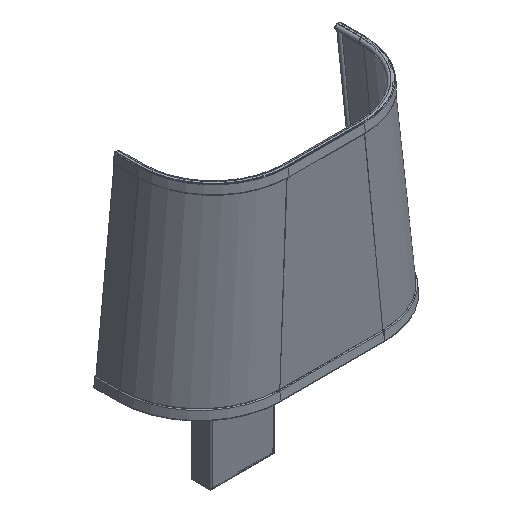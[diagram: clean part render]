
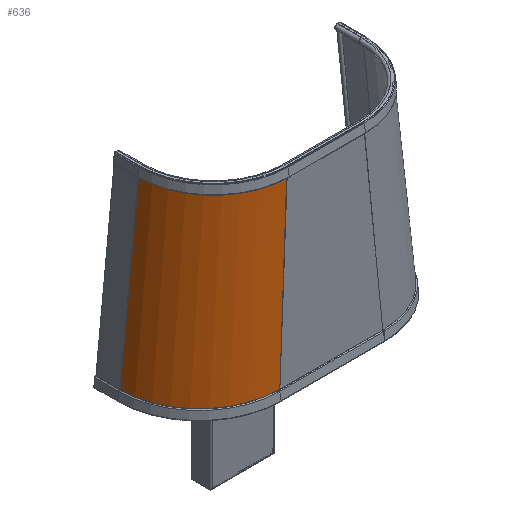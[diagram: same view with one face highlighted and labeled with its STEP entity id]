
A CAD part, isometric view. The second image highlights one B-rep face of the part: STEP entity #636.
In plain terms, the highlighted free-form (B-spline) face has degree [1, 2] with [2, 9] control points.
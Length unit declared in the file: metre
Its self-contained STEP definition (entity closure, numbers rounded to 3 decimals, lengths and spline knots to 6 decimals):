
#636 = ADVANCED_FACE( '', ( #897 ), #898, .T. );
#897 = FACE_OUTER_BOUND( '', #1566, .T. );
#898 = ( B_SPLINE_SURFACE( 1, 2, ( ( #1568, #1569, #1570, #1571, #1572, #1573, #1574, #1575, #1576 ), ( #1577, #1578, #1579, #1580, #1581, #1582, #1583, #1584, #1585 ) ), .UNSPECIFIED., .F., .T., .F. )B_SPLINE_SURFACE_WITH_KNOTS( ( 2, 2 ), ( 3, 2, 2, 2, 3 ), ( -2.486153, 0.157317 ), ( 0., 157.07923, 314.15846, 471.23769, 628.31692 ), .UNSPECIFIED. )RATIONAL_B_SPLINE_SURFACE( ( ( 1., 0.707, 1., 0.707, 1., 0.707, 1., 0.707, 1. ), ( 1., 0.707, 1., 0.707, 1., 0.707, 1., 0.707, 1. ) ) )BOUNDED_SURFACE(  )REPRESENTATION_ITEM( '' )GEOMETRIC_REPRESENTATION_ITEM(  )SURFACE(  ) );
#1566 = EDGE_LOOP( '', ( #2327, #2328, #2329, #2330 ) );
#1568 = CARTESIAN_POINT( '', ( 45.827808, 10.71033, 0.410837 ) );
#1569 = CARTESIAN_POINT( '', ( 45.73604, 10.71033, 0.417522 ) );
#1570 = CARTESIAN_POINT( '', ( 45.73604, 10.618076, 0.417522 ) );
#1571 = CARTESIAN_POINT( '', ( 45.73604, 10.525821, 0.417522 ) );
#1572 = CARTESIAN_POINT( '', ( 45.827808, 10.525821, 0.410837 ) );
#1573 = CARTESIAN_POINT( '', ( 45.919575, 10.525821, 0.404152 ) );
#1574 = CARTESIAN_POINT( '', ( 45.919575, 10.618076, 0.404152 ) );
#1575 = CARTESIAN_POINT( '', ( 45.919575, 10.71033, 0.404152 ) );
#1576 = CARTESIAN_POINT( '', ( 45.827808, 10.71033, 0.410837 ) );
#1577 = CARTESIAN_POINT( '', ( 45.808611, 10.718565, 0.147317 ) );
#1578 = CARTESIAN_POINT( '', ( 45.708652, 10.718565, 0.154599 ) );
#1579 = CARTESIAN_POINT( '', ( 45.708652, 10.618076, 0.154599 ) );
#1580 = CARTESIAN_POINT( '', ( 45.708652, 10.517586, 0.154599 ) );
#1581 = CARTESIAN_POINT( '', ( 45.808611, 10.517586, 0.147317 ) );
#1582 = CARTESIAN_POINT( '', ( 45.90857, 10.517586, 0.140036 ) );
#1583 = CARTESIAN_POINT( '', ( 45.90857, 10.618076, 0.140036 ) );
#1584 = CARTESIAN_POINT( '', ( 45.90857, 10.718565, 0.140036 ) );
#1585 = CARTESIAN_POINT( '', ( 45.808611, 10.718565, 0.147317 ) );
#2327 = ORIENTED_EDGE( '', *, *, #3979, .F. );
#2328 = ORIENTED_EDGE( '', *, *, #3961, .T. );
#2329 = ORIENTED_EDGE( '', *, *, #3974, .T. );
#2330 = ORIENTED_EDGE( '', *, *, #3954, .T. );
#3954 = EDGE_CURVE( '', #4461, #4459, #4462, .T. );
#3961 = EDGE_CURVE( '', #4474, #4472, #4475, .T. );
#3974 = EDGE_CURVE( '', #4472, #4461, #4494, .T. );
#3979 = EDGE_CURVE( '', #4474, #4459, #4499, .T. );
#4459 = VERTEX_POINT( '', #5312 );
#4461 = VERTEX_POINT( '', #5315 );
#4462 = CIRCLE( '', #5316, 0.0925 );
#4472 = VERTEX_POINT( '', #5329 );
#4474 = VERTEX_POINT( '', #5332 );
#4475 = CIRCLE( '', #5333, 0.1 );
#4494 = LINE( '', #5362, #5363 );
#4499 = LINE( '', #5372, #5373 );
#5312 = CARTESIAN_POINT( '', ( 45.734527, 10.618076, 0.403 ) );
#5315 = CARTESIAN_POINT( '', ( 45.827027, 10.525576, 0.403 ) );
#5316 = AXIS2_PLACEMENT_3D( '', #6400, #6401, #6402 );
#5329 = CARTESIAN_POINT( '', ( 45.809527, 10.518076, 0.163 ) );
#5332 = CARTESIAN_POINT( '', ( 45.709527, 10.618076, 0.163 ) );
#5333 = AXIS2_PLACEMENT_3D( '', #6413, #6414, #6415 );
#5362 = CARTESIAN_POINT( '', ( 45.809527, 10.518076, 0.163 ) );
#5363 = VECTOR( '', #6432, 1. );
#5372 = CARTESIAN_POINT( '', ( 45.710282, 10.618076, 0.170246 ) );
#5373 = VECTOR( '', #6437, 1. );
#6400 = CARTESIAN_POINT( '', ( 45.827027, 10.618076, 0.403 ) );
#6401 = DIRECTION( '', ( 0., 0., -1. ) );
#6402 = DIRECTION( '', ( -1., 0., 0. ) );
#6413 = CARTESIAN_POINT( '', ( 45.809527, 10.618076, 0.163 ) );
#6414 = DIRECTION( '', ( 0., 0., 1. ) );
#6415 = DIRECTION( '', ( -1., 0., 0. ) );
#6432 = DIRECTION( '', ( 0.073, 0.031, 0.997 ) );
#6437 = DIRECTION( '', ( 0.104, 0., 0.995 ) );
